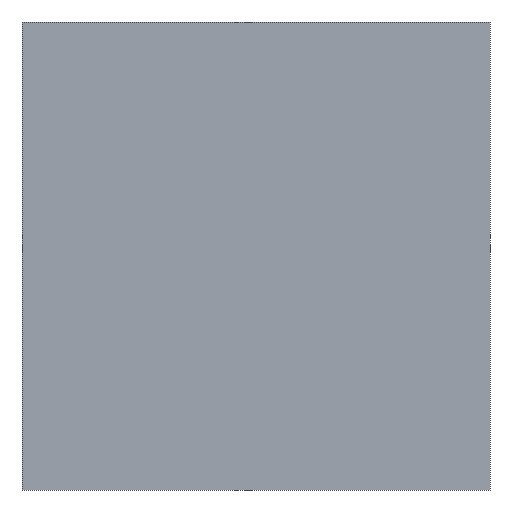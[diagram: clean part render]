
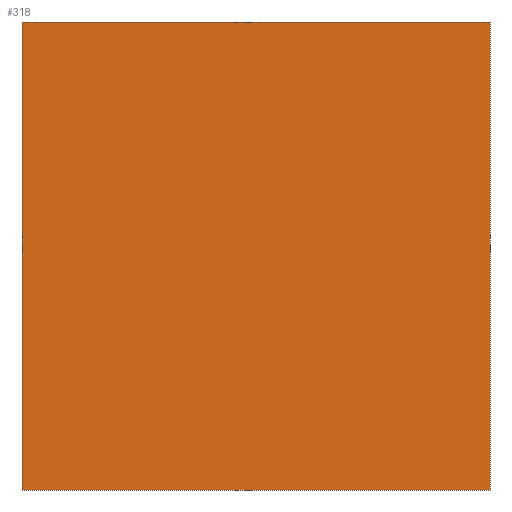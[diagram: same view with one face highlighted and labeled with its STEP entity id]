
A CAD part, front view. The second image highlights one B-rep face of the part: STEP entity #318.
In plain terms, the highlighted planar face has unit normal (0, -1, 0).
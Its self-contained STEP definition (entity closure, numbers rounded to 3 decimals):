
#97=DIRECTION('',(1.,0.,0.));
#98=VECTOR('',#97,1.4);
#99=CARTESIAN_POINT('',(-0.7,0.,0.7));
#100=LINE('',#99,#98);
#101=DIRECTION('',(0.,0.,-1.));
#102=VECTOR('',#101,1.4);
#103=CARTESIAN_POINT('',(0.7,0.,0.7));
#104=LINE('',#103,#102);
#105=DIRECTION('',(-1.,0.,0.));
#106=VECTOR('',#105,1.4);
#107=CARTESIAN_POINT('',(0.7,0.,-0.7));
#108=LINE('',#107,#106);
#109=DIRECTION('',(0.,0.,1.));
#110=VECTOR('',#109,1.4);
#111=CARTESIAN_POINT('',(-0.7,0.,-0.7));
#112=LINE('',#111,#110);
#143=CARTESIAN_POINT('',(0.7,0.,0.7));
#145=VERTEX_POINT('',#143);
#147=CARTESIAN_POINT('',(-0.7,0.,0.7));
#149=VERTEX_POINT('',#147);
#151=CARTESIAN_POINT('',(-0.7,0.,-0.7));
#153=VERTEX_POINT('',#151);
#155=CARTESIAN_POINT('',(0.7,0.,-0.7));
#157=VERTEX_POINT('',#155);
#304=CARTESIAN_POINT('',(0.,0.,0.));
#305=DIRECTION('',(0.,-1.,0.));
#306=DIRECTION('',(0.,0.,1.));
#307=AXIS2_PLACEMENT_3D('',#304,#305,#306);
#308=PLANE('',#307);
#310=ORIENTED_EDGE('',*,*,#309,.T.);
#311=ORIENTED_EDGE('',*,*,#294,.T.);
#313=ORIENTED_EDGE('',*,*,#312,.T.);
#315=ORIENTED_EDGE('',*,*,#314,.T.);
#316=EDGE_LOOP('',(#310,#311,#313,#315));
#317=FACE_OUTER_BOUND('',#316,.F.);
#318=ADVANCED_FACE('',(#317),#308,.T.);
#294=EDGE_CURVE('',#145,#157,#104,.T.);
#309=EDGE_CURVE('',#149,#145,#100,.T.);
#312=EDGE_CURVE('',#157,#153,#108,.T.);
#314=EDGE_CURVE('',#153,#149,#112,.T.);
